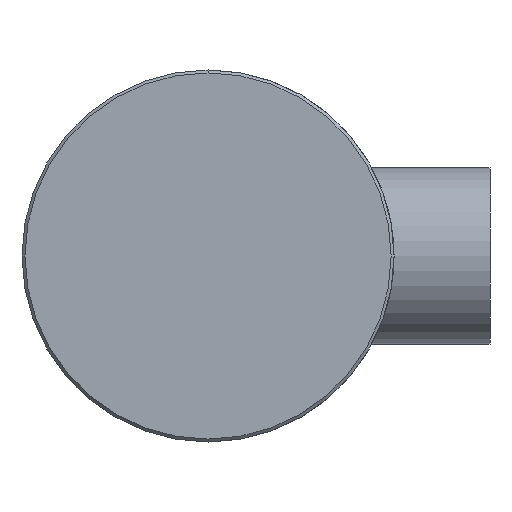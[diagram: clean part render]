
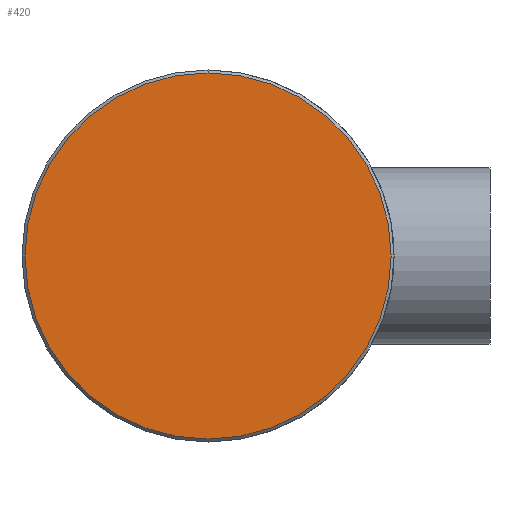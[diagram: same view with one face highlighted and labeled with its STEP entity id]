
A CAD part, left-side view. The second image highlights one B-rep face of the part: STEP entity #420.
In plain terms, the highlighted planar face has unit normal (-1, 0, 0).
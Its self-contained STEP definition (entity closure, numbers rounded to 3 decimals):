
#39 = CARTESIAN_POINT ( 'NONE',  ( 0., 0., 0. ) ) ;
#137 = DIRECTION ( 'NONE',  ( -1., 0., 0. ) ) ;
#138 = FACE_OUTER_BOUND ( 'NONE', #326, .T. ) ;
#169 = VERTEX_POINT ( 'NONE', #812 ) ;
#175 = EDGE_CURVE ( 'NONE', #291, #169, #576, .T. ) ;
#268 = DIRECTION ( 'NONE',  ( -1., 0., 0. ) ) ;
#291 = VERTEX_POINT ( 'NONE', #487 ) ;
#295 = AXIS2_PLACEMENT_3D ( 'NONE', #767, #137, #694 ) ;
#306 = ORIENTED_EDGE ( 'NONE', *, *, #175, .T. ) ;
#326 = EDGE_LOOP ( 'NONE', ( #866, #306 ) ) ;
#391 = DIRECTION ( 'NONE',  ( 1., 0., 0. ) ) ;
#415 = CIRCLE ( 'NONE', #589, 18.7 ) ;
#420 = ADVANCED_FACE ( 'NONE', ( #138 ), #456, .F. ) ;
#456 = PLANE ( 'NONE',  #836 ) ;
#482 = CARTESIAN_POINT ( 'NONE',  ( 0., 0., 0. ) ) ;
#487 = CARTESIAN_POINT ( 'NONE',  ( 0., 0., 18.7 ) ) ;
#576 = CIRCLE ( 'NONE', #295, 18.7 ) ;
#589 = AXIS2_PLACEMENT_3D ( 'NONE', #482, #268, #819 ) ;
#664 = DIRECTION ( 'NONE',  ( 0., 0., -1. ) ) ;
#694 = DIRECTION ( 'NONE',  ( 0., 0., 1. ) ) ;
#767 = CARTESIAN_POINT ( 'NONE',  ( 0., 0., 0. ) ) ;
#812 = CARTESIAN_POINT ( 'NONE',  ( 0., 0., -18.7 ) ) ;
#819 = DIRECTION ( 'NONE',  ( 0., 0., 1. ) ) ;
#825 = EDGE_CURVE ( 'NONE', #169, #291, #415, .T. ) ;
#836 = AXIS2_PLACEMENT_3D ( 'NONE', #39, #391, #664 ) ;
#866 = ORIENTED_EDGE ( 'NONE', *, *, #825, .T. ) ;
